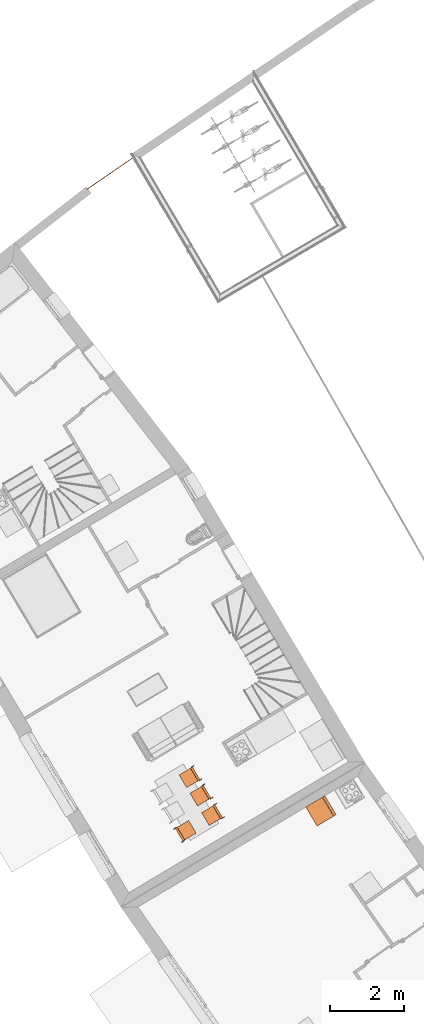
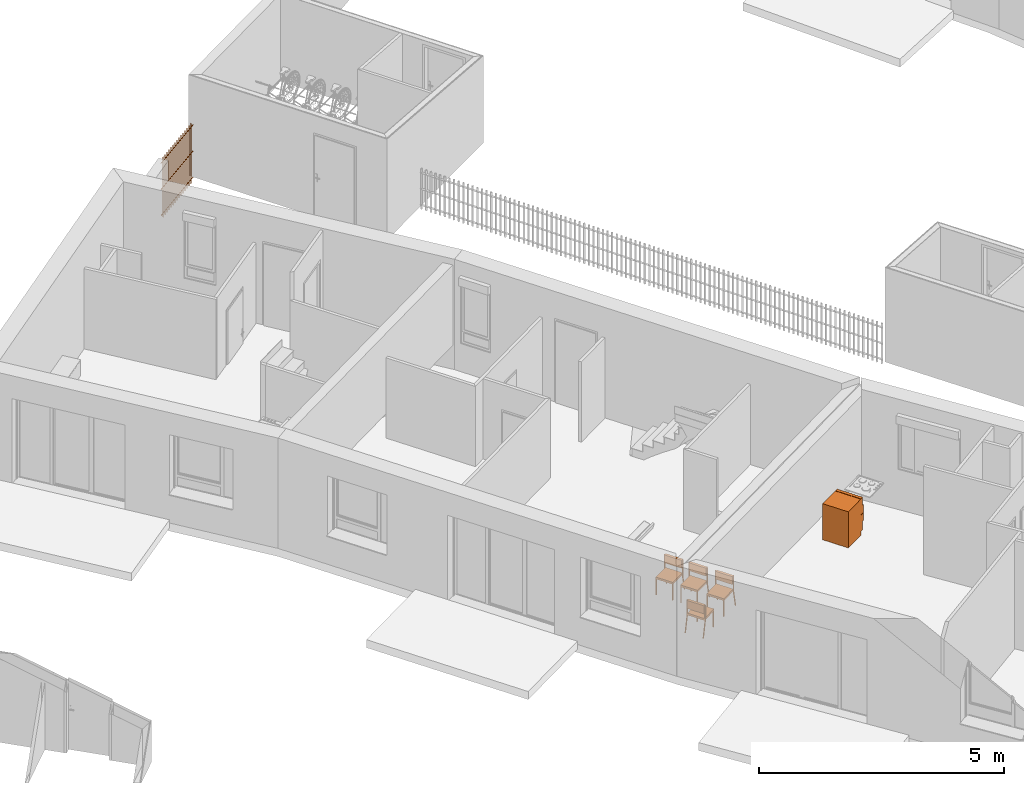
# One storey, part 174 of 195: 6 proxies.
"""IFC2X3 building model written with IfcOpenShell, lengths in metres."""

from ifc_helpers import new_model, entity, si_unit, converted_unit, derived_unit, money_unit, direction, frame, origin_with_axes, place, context, subcontext, project, spatial, open_shell, faceted_brep, surface_model, source, transform, mapped, type_object, element, save


model = new_model("IFC2X3")

# Units and contexts
model_context = context("Model", 3, precision=1e-05, world=origin_with_axes(), true_north=direction((0.0, 1.0)))
body_context = subcontext(model_context, "Body", "Model", "MODEL_VIEW")
ifc_project = project(units=[si_unit("LENGTHUNIT", "METRE"), si_unit("AREAUNIT", "SQUARE_METRE"), si_unit("VOLUMEUNIT", "CUBIC_METRE"), converted_unit("PLANEANGLEUNIT", "DEGREE", entity("IfcPlaneAngleMeasure", 0.0174532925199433), si_unit("PLANEANGLEUNIT", "RADIAN"), dimensions=[0, 0, 0, 0, 0, 0, 0]), money_unit("CHF"), converted_unit("TIMEUNIT", "Year", entity("IfcTimeMeasure", 31557600.0), si_unit("TIMEUNIT", "SECOND"), dimensions=[0, 0, 1, 0, 0, 0, 0]), si_unit("MASSUNIT", "GRAM", prefix="KILO"), si_unit("THERMODYNAMICTEMPERATUREUNIT", "DEGREE_CELSIUS"), si_unit("LUMINOUSINTENSITYUNIT", "LUMEN"), si_unit("ENERGYUNIT", "JOULE", prefix="MEGA"), derived_unit("THERMALCONDUCTANCEUNIT", [(si_unit("POWERUNIT", "WATT"), 1), (si_unit("LENGTHUNIT", "METRE"), -1), (si_unit("THERMODYNAMICTEMPERATUREUNIT", "KELVIN"), -1)]), derived_unit("SPECIFICHEATCAPACITYUNIT", [(si_unit("ENERGYUNIT", "JOULE"), 1), (si_unit("MASSUNIT", "GRAM", prefix="KILO"), -1), (si_unit("THERMODYNAMICTEMPERATUREUNIT", "KELVIN"), -1)]), derived_unit("MASSDENSITYUNIT", [(si_unit("MASSUNIT", "GRAM", prefix="KILO"), 1), (si_unit("VOLUMEUNIT", "CUBIC_METRE"), -1)])], contexts=[model_context])

# Site, building, storey
site_placement = place(None, origin_with_axes())
site = spatial("IfcSite", under=ifc_project, at=site_placement, Name="Site", CompositionType="ELEMENT")
building_placement = place(site_placement, origin_with_axes())
building = spatial("IfcBuilding", under=site, at=building_placement, Name="Bâtiment", CompositionType="ELEMENT")
storey_placement = place(building_placement, origin_with_axes())
storey = spatial("IfcBuildingStorey", under=building, at=storey_placement, Name="rdc", CompositionType="ELEMENT", Elevation=0.0)

# Proxies
building_element_proxy_type_1 = type_object("IfcBuildingElementProxyType", PredefinedType="NOTDEFINED")
shared_shape_1 = source(origin_with_axes(), body_context, "Body", "Brep", [
    faceted_brep([(0.03999999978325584, 0.0, 0.0), (0.01999999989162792, 0.0, 0.0), (0.01999999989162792, 0.01999999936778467, 0.0), (0.03999999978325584, 0.01999999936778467, 0.0), (0.03999999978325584, 0.0, 0.4), (0.01999999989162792, 0.0, 0.4), (0.01999999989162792, 0.01999999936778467, 0.4), (0.03999999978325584, 0.01999999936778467, 0.4)], [[[0, 1, 2, 3]], [[1, 0, 4, 5]], [[2, 1, 5, 6]], [[3, 2, 6, 7]], [[0, 3, 7, 4]], [[5, 4, 7, 6]]]),
    faceted_brep([(0.4199999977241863, 0.0, 0.0), (0.3999999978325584, 0.0, 0.0), (0.3999999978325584, 0.01999999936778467, 0.0), (0.4199999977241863, 0.01999999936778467, 0.0), (0.4199999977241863, 0.0, 0.4), (0.3999999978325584, 0.0, 0.4), (0.3999999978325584, 0.01999999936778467, 0.4), (0.4199999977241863, 0.01999999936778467, 0.4)], [[[0, 1, 2, 3]], [[1, 0, 4, 5]], [[2, 1, 5, 6]], [[3, 2, 6, 7]], [[0, 3, 7, 4]], [[5, 4, 7, 6]]]),
    faceted_brep([(0.3999999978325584, 0.0, 0.4000000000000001), (0.03999999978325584, 0.0, 0.4000000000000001), (0.03999999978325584, 0.01999999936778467, 0.4000000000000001), (0.3999999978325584, 0.01999999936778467, 0.4000000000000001), (0.3999999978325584, 0.0, 0.4200000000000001), (0.03999999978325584, 0.0, 0.4200000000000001), (0.03999999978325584, 0.01999999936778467, 0.4200000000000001), (0.3999999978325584, 0.01999999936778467, 0.4200000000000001)], [[[0, 1, 2, 3]], [[1, 0, 4, 5]], [[2, 1, 5, 6]], [[3, 2, 6, 7]], [[0, 3, 7, 4]], [[5, 4, 7, 6]]]),
    faceted_brep([(0.03999999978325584, 0.01999999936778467, 0.4000000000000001), (0.01999999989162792, 0.01999999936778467, 0.4000000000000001), (0.01999999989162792, 0.3799999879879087, 0.4000000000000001), (0.03999999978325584, 0.3799999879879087, 0.4000000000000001), (0.03999999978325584, 0.01999999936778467, 0.4200000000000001), (0.01999999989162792, 0.01999999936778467, 0.4200000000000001), (0.01999999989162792, 0.3799999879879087, 0.4200000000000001), (0.03999999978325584, 0.3799999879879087, 0.4200000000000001)], [[[0, 1, 2, 3]], [[1, 0, 4, 5]], [[2, 1, 5, 6]], [[3, 2, 6, 7]], [[0, 3, 7, 4]], [[5, 4, 7, 6]]]),
    faceted_brep([(0.4199999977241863, 0.3799999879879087, 0.4000000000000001), (0.01999999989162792, 0.3799999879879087, 0.4000000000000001), (0.01999999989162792, 0.3999999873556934, 0.4000000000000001), (0.4199999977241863, 0.3999999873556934, 0.4000000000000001), (0.4199999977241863, 0.3799999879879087, 0.4200000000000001), (0.01999999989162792, 0.3799999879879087, 0.4200000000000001), (0.01999999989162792, 0.3999999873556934, 0.4200000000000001), (0.4199999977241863, 0.3999999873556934, 0.4200000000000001)], [[[0, 1, 2, 3]], [[1, 0, 4, 5]], [[2, 1, 5, 6]], [[3, 2, 6, 7]], [[0, 3, 7, 4]], [[5, 4, 7, 6]]]),
    faceted_brep([(0.4199999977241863, 0.01999999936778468, 0.4000000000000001), (0.3999999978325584, 0.01999999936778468, 0.4000000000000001), (0.3999999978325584, 0.3799999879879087, 0.4000000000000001), (0.4199999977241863, 0.3799999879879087, 0.4000000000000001), (0.4199999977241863, 0.01999999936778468, 0.4200000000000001), (0.3999999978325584, 0.01999999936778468, 0.4200000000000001), (0.3999999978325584, 0.3799999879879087, 0.4200000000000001), (0.4199999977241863, 0.3799999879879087, 0.4200000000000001)], [[[0, 1, 2, 3]], [[1, 0, 4, 5]], [[2, 1, 5, 6]], [[3, 2, 6, 7]], [[0, 3, 7, 4]], [[5, 4, 7, 6]]]),
    faceted_brep([(0.4199999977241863, 0.0, 0.4), (0.01999999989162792, 0.0, 0.4), (0.01999999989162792, 0.3999999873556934, 0.4), (0.4199999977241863, 0.3999999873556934, 0.4), (0.4199999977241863, 0.0, 0.45), (0.01999999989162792, 0.0, 0.45), (0.01999999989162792, 0.3999999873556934, 0.45), (0.4199999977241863, 0.3999999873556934, 0.45)], [[[0, 1, 2, 3]], [[1, 0, 4, 5]], [[2, 1, 5, 6]], [[3, 2, 6, 7]], [[0, 3, 7, 4]], [[5, 4, 7, 6]]]),
    faceted_brep([(0.01999999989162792, 0.3799999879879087, 0.38), (0.0, 0.3799999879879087, 0.38), (0.0, 0.3999999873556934, 0.38), (0.01999999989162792, 0.3999999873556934, 0.38), (0.01999999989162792, 0.3799999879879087, 0.78), (0.0, 0.3799999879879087, 0.78), (0.0, 0.3999999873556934, 0.78), (0.01999999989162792, 0.3999999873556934, 0.78)], [[[0, 1, 2, 3]], [[1, 0, 4, 5]], [[2, 1, 5, 6]], [[3, 2, 6, 7]], [[0, 3, 7, 4]], [[5, 4, 7, 6]]]),
    faceted_brep([(0.4399999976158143, 0.3799999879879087, 0.38), (0.4199999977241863, 0.3799999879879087, 0.38), (0.4199999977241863, 0.3999999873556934, 0.38), (0.4399999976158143, 0.3999999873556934, 0.38), (0.4399999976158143, 0.3799999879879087, 0.78), (0.4199999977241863, 0.3799999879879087, 0.78), (0.4199999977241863, 0.3999999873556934, 0.78), (0.4399999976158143, 0.3999999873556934, 0.78)], [[[0, 1, 2, 3]], [[1, 0, 4, 5]], [[2, 1, 5, 6]], [[3, 2, 6, 7]], [[0, 3, 7, 4]], [[5, 4, 7, 6]]]),
    faceted_brep([(0.4199999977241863, 0.3599999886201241, 0.5800000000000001), (0.01999999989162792, 0.3599999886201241, 0.5800000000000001), (0.01999999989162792, 0.419999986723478, 0.5800000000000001), (0.4199999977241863, 0.419999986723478, 0.5800000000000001), (0.4199999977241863, 0.3599999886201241, 0.78), (0.01999999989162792, 0.3599999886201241, 0.78), (0.01999999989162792, 0.419999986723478, 0.78), (0.4199999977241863, 0.419999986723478, 0.78)], [[[0, 1, 2, 3]], [[1, 0, 4, 5]], [[2, 1, 5, 6]], [[3, 2, 6, 7]], [[0, 3, 7, 4]], [[5, 4, 7, 6]]]),
    faceted_brep([(0.01999999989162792, 0.4599999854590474, 0.0), (0.0, 0.4599999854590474, 0.0), (0.0, 0.4795709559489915, 0.004120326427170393), (0.01999999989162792, 0.4795709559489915, 0.004120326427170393), (0.01999999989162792, 0.379997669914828, 0.379999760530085), (0.0, 0.379997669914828, 0.379999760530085), (0.0, 0.3995686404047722, 0.3841200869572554), (0.01999999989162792, 0.3995686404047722, 0.3841200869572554)], [[[0, 1, 2, 3]], [[1, 0, 4, 5]], [[2, 1, 5, 6]], [[3, 2, 6, 7]], [[0, 3, 7, 4]], [[5, 4, 7, 6]]]),
    faceted_brep([(0.4399999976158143, 0.4599999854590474, 0.0), (0.4199999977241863, 0.4599999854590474, 0.0), (0.4199999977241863, 0.4795709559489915, 0.004120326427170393), (0.4399999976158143, 0.4795709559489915, 0.004120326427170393), (0.4399999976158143, 0.379997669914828, 0.379999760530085), (0.4199999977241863, 0.379997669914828, 0.379999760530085), (0.4199999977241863, 0.3995686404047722, 0.3841200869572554), (0.4399999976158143, 0.3995686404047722, 0.3841200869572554)], [[[0, 1, 2, 3]], [[1, 0, 4, 5]], [[2, 1, 5, 6]], [[3, 2, 6, 7]], [[0, 3, 7, 4]], [[5, 4, 7, 6]]]),
])
for number, where, z_axis, x_axis, name in (
    (1, (9545.392823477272, -1052.63758636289, 57.0), (0.0, 0.0, 1.0), (0.5118298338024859, -0.8590868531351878, 0.0), "Obj.-027"),
    (2, (9545.077983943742, -1052.10914021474, 57.0), (0.0, 0.0, 1.0), (0.5118298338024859, -0.8590868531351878, 0.0), "Obj.-027"),
    (3, (9544.782724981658, -1051.613559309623, 57.0), (0.0, 0.0, 1.0), (0.5118298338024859, -0.8590868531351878, 0.0), "Obj.-027"),
):
    element("IfcBuildingElementProxy", number, at=place(storey_placement, frame(where, z_axis=z_axis, x_axis=x_axis)), inside=storey, type_object=building_element_proxy_type_1, Name=name, context=body_context, shape_type="MappedRepresentation", body=[
        mapped(shared_shape_1, transform((0.0, 0.0, 0.0))),
    ])
shared_shape_2 = source(origin_with_axes(), body_context, "Body", "SurfaceModel", [
    faceted_brep([(0.0, 0.08, 0.1), (0.0, 0.08, 0.9), (-0.6, 0.08, 0.9), (-0.6, 0.08, 0.1), (0.0, 0.6, 0.1), (0.0, 0.6, 0.9), (-0.6, 0.6, 0.9), (-0.6, 0.6, 0.1)], [[[0, 1, 2, 3]], [[4, 5, 1, 0]], [[1, 5, 6, 2]], [[3, 2, 6, 7]], [[0, 3, 7, 4]], [[7, 6, 5, 4]]]),
    faceted_brep([(0.0, 0.08, 0.0), (0.0, 0.08, 0.1), (-0.6, 0.08, 0.1), (-0.6, 0.08, 0.0), (0.0, 0.6, 0.0), (0.0, 0.6, 0.1), (-0.6, 0.6, 0.1), (-0.6, 0.6, 0.0)], [[[0, 1, 2, 3]], [[4, 5, 1, 0]], [[1, 5, 6, 2]], [[3, 2, 6, 7]], [[0, 3, 7, 4]], [[7, 6, 5, 4]]]),
    faceted_brep([(0.0, 0.07, 0.1), (0.0, 0.0, 0.1), (-0.6, 0.0, 0.1), (-0.6, 0.07, 0.1), (0.0, 0.07000000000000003, 0.494), (0.0, 0.0, 0.494), (-0.6, 0.0, 0.494), (-0.6, 0.07000000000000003, 0.494)], [[[0, 1, 2, 3]], [[4, 5, 1, 0]], [[1, 5, 6, 2]], [[3, 2, 6, 7]], [[0, 3, 7, 4]], [[7, 6, 5, 4]]]),
    faceted_brep([(0.0, 0.07, 0.5), (0.0, 0.0, 0.5), (-0.6, 0.0, 0.5), (-0.6, 0.07, 0.5), (0.0, 0.07000000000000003, 0.9), (0.0, 0.0, 0.9), (-0.6, 0.0, 0.9), (-0.6, 0.07000000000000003, 0.9)], [[[0, 1, 2, 3]], [[4, 5, 1, 0]], [[1, 5, 6, 2]], [[3, 2, 6, 7]], [[0, 3, 7, 4]], [[7, 6, 5, 4]]]),
    surface_model("IfcShellBasedSurfaceModel", [(-0.6, -0.03, 0.3), (-0.6, 0.0, 0.3), (-0.6, 0.0, 0.4940000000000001), (-0.6, -0.03, 0.4940000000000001)], [open_shell([[[0, 1, 2, 3]]])]),
    surface_model("IfcShellBasedSurfaceModel", [(-0.6, -0.03, 0.3), (-0.57, -0.03, 0.3), (-0.57, -0.03, 0.4940000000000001), (-0.6, -0.03, 0.4940000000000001)], [open_shell([[[0, 1, 2, 3]]])]),
    surface_model("IfcShellBasedSurfaceModel", [(-0.6, -0.03, 0.5), (-0.6, 0.0, 0.5), (-0.6, 0.0, 0.7), (-0.6, -0.03, 0.7)], [open_shell([[[0, 1, 2, 3]]])]),
    surface_model("IfcShellBasedSurfaceModel", [(-0.6, -0.03, 0.5), (-0.57, -0.03, 0.5), (-0.57, -0.03, 0.7), (-0.6, -0.03, 0.7)], [open_shell([[[0, 1, 2, 3]]])]),
])
proxy_1_placement = place(storey_placement, frame((9548.743397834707, -1052.190321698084, 57.7), z_axis=(0.0, 0.0, 1.0), x_axis=(-0.5118647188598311, 0.8590660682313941, 0.0)))
element("IfcBuildingElementProxy", 4, at=proxy_1_placement, inside=storey, type_object=building_element_proxy_type_1, Name="Obj.-019", context=body_context, shape_type="MappedRepresentation", body=[
    mapped(shared_shape_2, transform((0.0, 0.0, 0.0))),
])
shared_shape_3 = source(origin_with_axes(), body_context, "Body", "Brep", [
    faceted_brep([(-0.03999999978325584, 0.0, 0.0), (-0.03999999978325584, 0.01999999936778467, 0.0), (-0.01999999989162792, 0.01999999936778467, 0.0), (-0.01999999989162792, 0.0, 0.0), (-0.03999999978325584, 0.0, 0.4), (-0.03999999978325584, 0.01999999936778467, 0.4), (-0.01999999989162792, 0.01999999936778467, 0.4), (-0.01999999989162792, 0.0, 0.4)], [[[0, 1, 2, 3]], [[0, 4, 5, 1]], [[1, 5, 6, 2]], [[2, 6, 7, 3]], [[3, 7, 4, 0]], [[7, 6, 5, 4]]]),
    faceted_brep([(-0.4199999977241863, 0.0, 0.0), (-0.4199999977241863, 0.01999999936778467, 0.0), (-0.3999999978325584, 0.01999999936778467, 0.0), (-0.3999999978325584, 0.0, 0.0), (-0.4199999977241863, 0.0, 0.4), (-0.4199999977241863, 0.01999999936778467, 0.4), (-0.3999999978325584, 0.01999999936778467, 0.4), (-0.3999999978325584, 0.0, 0.4)], [[[0, 1, 2, 3]], [[0, 4, 5, 1]], [[1, 5, 6, 2]], [[2, 6, 7, 3]], [[3, 7, 4, 0]], [[7, 6, 5, 4]]]),
    faceted_brep([(-0.3999999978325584, 0.0, 0.4000000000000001), (-0.3999999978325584, 0.01999999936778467, 0.4000000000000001), (-0.03999999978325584, 0.01999999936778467, 0.4000000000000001), (-0.03999999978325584, 0.0, 0.4000000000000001), (-0.3999999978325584, 0.0, 0.4200000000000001), (-0.3999999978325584, 0.01999999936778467, 0.4200000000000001), (-0.03999999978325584, 0.01999999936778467, 0.4200000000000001), (-0.03999999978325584, 0.0, 0.4200000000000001)], [[[0, 1, 2, 3]], [[0, 4, 5, 1]], [[1, 5, 6, 2]], [[2, 6, 7, 3]], [[3, 7, 4, 0]], [[7, 6, 5, 4]]]),
    faceted_brep([(-0.03999999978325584, 0.01999999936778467, 0.4000000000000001), (-0.03999999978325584, 0.3799999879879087, 0.4000000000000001), (-0.01999999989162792, 0.3799999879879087, 0.4000000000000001), (-0.01999999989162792, 0.01999999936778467, 0.4000000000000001), (-0.03999999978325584, 0.01999999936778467, 0.4200000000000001), (-0.03999999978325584, 0.3799999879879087, 0.4200000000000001), (-0.01999999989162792, 0.3799999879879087, 0.4200000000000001), (-0.01999999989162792, 0.01999999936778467, 0.4200000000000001)], [[[0, 1, 2, 3]], [[0, 4, 5, 1]], [[1, 5, 6, 2]], [[2, 6, 7, 3]], [[3, 7, 4, 0]], [[7, 6, 5, 4]]]),
    faceted_brep([(-0.4199999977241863, 0.3799999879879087, 0.4000000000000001), (-0.4199999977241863, 0.3999999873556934, 0.4000000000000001), (-0.01999999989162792, 0.3999999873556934, 0.4000000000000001), (-0.01999999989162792, 0.3799999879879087, 0.4000000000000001), (-0.4199999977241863, 0.3799999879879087, 0.4200000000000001), (-0.4199999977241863, 0.3999999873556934, 0.4200000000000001), (-0.01999999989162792, 0.3999999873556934, 0.4200000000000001), (-0.01999999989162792, 0.3799999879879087, 0.4200000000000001)], [[[0, 1, 2, 3]], [[0, 4, 5, 1]], [[1, 5, 6, 2]], [[2, 6, 7, 3]], [[3, 7, 4, 0]], [[7, 6, 5, 4]]]),
    faceted_brep([(-0.4199999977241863, 0.01999999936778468, 0.4000000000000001), (-0.4199999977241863, 0.3799999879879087, 0.4000000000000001), (-0.3999999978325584, 0.3799999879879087, 0.4000000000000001), (-0.3999999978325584, 0.01999999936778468, 0.4000000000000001), (-0.4199999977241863, 0.01999999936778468, 0.4200000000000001), (-0.4199999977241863, 0.3799999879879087, 0.4200000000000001), (-0.3999999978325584, 0.3799999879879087, 0.4200000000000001), (-0.3999999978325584, 0.01999999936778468, 0.4200000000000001)], [[[0, 1, 2, 3]], [[0, 4, 5, 1]], [[1, 5, 6, 2]], [[2, 6, 7, 3]], [[3, 7, 4, 0]], [[7, 6, 5, 4]]]),
    faceted_brep([(-0.4199999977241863, 0.0, 0.4), (-0.4199999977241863, 0.3999999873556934, 0.4), (-0.01999999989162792, 0.3999999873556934, 0.4), (-0.01999999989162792, 0.0, 0.4), (-0.4199999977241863, 0.0, 0.45), (-0.4199999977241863, 0.3999999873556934, 0.45), (-0.01999999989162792, 0.3999999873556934, 0.45), (-0.01999999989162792, 0.0, 0.45)], [[[0, 1, 2, 3]], [[0, 4, 5, 1]], [[1, 5, 6, 2]], [[2, 6, 7, 3]], [[3, 7, 4, 0]], [[7, 6, 5, 4]]]),
    faceted_brep([(-0.01999999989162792, 0.3799999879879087, 0.38), (-0.01999999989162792, 0.3999999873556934, 0.38), (0.0, 0.3999999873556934, 0.38), (0.0, 0.3799999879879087, 0.38), (-0.01999999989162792, 0.3799999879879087, 0.78), (-0.01999999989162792, 0.3999999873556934, 0.78), (0.0, 0.3999999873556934, 0.78), (0.0, 0.3799999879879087, 0.78)], [[[0, 1, 2, 3]], [[0, 4, 5, 1]], [[1, 5, 6, 2]], [[2, 6, 7, 3]], [[3, 7, 4, 0]], [[7, 6, 5, 4]]]),
    faceted_brep([(-0.4399999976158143, 0.3799999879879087, 0.38), (-0.4399999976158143, 0.3999999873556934, 0.38), (-0.4199999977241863, 0.3999999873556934, 0.38), (-0.4199999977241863, 0.3799999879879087, 0.38), (-0.4399999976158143, 0.3799999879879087, 0.78), (-0.4399999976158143, 0.3999999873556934, 0.78), (-0.4199999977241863, 0.3999999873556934, 0.78), (-0.4199999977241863, 0.3799999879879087, 0.78)], [[[0, 1, 2, 3]], [[0, 4, 5, 1]], [[1, 5, 6, 2]], [[2, 6, 7, 3]], [[3, 7, 4, 0]], [[7, 6, 5, 4]]]),
    faceted_brep([(-0.4199999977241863, 0.3599999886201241, 0.5800000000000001), (-0.4199999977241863, 0.419999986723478, 0.5800000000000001), (-0.01999999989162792, 0.419999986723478, 0.5800000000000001), (-0.01999999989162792, 0.3599999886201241, 0.5800000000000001), (-0.4199999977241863, 0.3599999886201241, 0.78), (-0.4199999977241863, 0.419999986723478, 0.78), (-0.01999999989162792, 0.419999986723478, 0.78), (-0.01999999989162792, 0.3599999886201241, 0.78)], [[[0, 1, 2, 3]], [[0, 4, 5, 1]], [[1, 5, 6, 2]], [[2, 6, 7, 3]], [[3, 7, 4, 0]], [[7, 6, 5, 4]]]),
    faceted_brep([(-0.01999999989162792, 0.4599999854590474, 0.0), (-0.01999999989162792, 0.4795709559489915, 0.004120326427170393), (0.0, 0.4795709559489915, 0.004120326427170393), (0.0, 0.4599999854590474, 0.0), (-0.01999999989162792, 0.379997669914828, 0.379999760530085), (-0.01999999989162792, 0.3995686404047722, 0.3841200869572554), (0.0, 0.3995686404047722, 0.3841200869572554), (0.0, 0.379997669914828, 0.379999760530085)], [[[0, 1, 2, 3]], [[0, 4, 5, 1]], [[1, 5, 6, 2]], [[2, 6, 7, 3]], [[3, 7, 4, 0]], [[7, 6, 5, 4]]]),
    faceted_brep([(-0.4399999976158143, 0.4599999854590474, 0.0), (-0.4399999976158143, 0.4795709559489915, 0.004120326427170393), (-0.4199999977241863, 0.4795709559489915, 0.004120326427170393), (-0.4199999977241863, 0.4599999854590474, 0.0), (-0.4399999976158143, 0.379997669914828, 0.379999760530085), (-0.4399999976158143, 0.3995686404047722, 0.3841200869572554), (-0.4199999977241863, 0.3995686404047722, 0.3841200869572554), (-0.4199999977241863, 0.379997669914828, 0.379999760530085)], [[[0, 1, 2, 3]], [[0, 4, 5, 1]], [[1, 5, 6, 2]], [[2, 6, 7, 3]], [[3, 7, 4, 0]], [[7, 6, 5, 4]]]),
])
proxy_2_placement = place(storey_placement, frame((9545.04226674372, -1052.846442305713, 57.0), z_axis=(0.0, 0.0, 1.0), x_axis=(-0.5118298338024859, 0.8590868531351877, 0.0)))
element("IfcBuildingElementProxy", 5, at=proxy_2_placement, inside=storey, type_object=building_element_proxy_type_1, Name="Obj.-027", context=body_context, shape_type="MappedRepresentation", body=[
    mapped(shared_shape_3, transform((0.0, 0.0, 0.0))),
])
building_element_proxy_type_2 = type_object("IfcBuildingElementProxyType", Name="Grille anti-effraction", PredefinedType="NOTDEFINED")
shared_shape_4 = source(origin_with_axes(), body_context, "Body", "Brep", [
    faceted_brep([(0.7605730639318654, -0.01, 0.1), (0.7605730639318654, 0.0, 0.09000000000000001), (0.7605730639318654, 0.01, 0.1), (0.7605730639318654, 0.0, 0.11), (-0.7605730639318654, -0.01, 0.1000000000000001), (-0.7605730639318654, 0.0, 0.0900000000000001), (-0.7605730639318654, 0.01, 0.1000000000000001), (-0.7605730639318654, 0.0, 0.1100000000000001)], [[[0, 1, 2, 3]], [[0, 4, 5, 1]], [[1, 5, 6, 2]], [[2, 6, 7, 3]], [[3, 7, 4, 0]], [[4, 7, 6, 5]]]),
    faceted_brep([(0.7605730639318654, -0.01, 0.75), (0.7605730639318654, 0.0, 0.74), (0.7605730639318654, 0.01, 0.75), (0.7605730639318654, 0.0, 0.76), (-0.7605730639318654, -0.01, 0.7500000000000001), (-0.7605730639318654, 0.0, 0.7400000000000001), (-0.7605730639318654, 0.01, 0.7500000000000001), (-0.7605730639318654, 0.0, 0.7600000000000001)], [[[0, 1, 2, 3]], [[0, 4, 5, 1]], [[1, 5, 6, 2]], [[2, 6, 7, 3]], [[3, 7, 4, 0]], [[4, 7, 6, 5]]]),
    faceted_brep([(0.7605730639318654, -0.01, 1.4), (0.7605730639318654, 0.0, 1.39), (0.7605730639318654, 0.01, 1.4), (0.7605730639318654, 0.0, 1.41), (-0.7605730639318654, -0.01, 1.4), (-0.7605730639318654, 0.0, 1.39), (-0.7605730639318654, 0.01, 1.4), (-0.7605730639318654, 0.0, 1.41)], [[[0, 1, 2, 3]], [[0, 4, 5, 1]], [[1, 5, 6, 2]], [[2, 6, 7, 3]], [[3, 7, 4, 0]], [[4, 7, 6, 5]]]),
    faceted_brep([(0.6605730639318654, -0.01, 0.0), (0.6505730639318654, 0.0, 0.0), (0.6605730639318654, 0.01, 0.0), (0.6705730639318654, 0.0, 0.0), (0.6605730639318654, -0.01, 1.5), (0.6505730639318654, 0.0, 1.5), (0.6605730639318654, 0.01, 1.5), (0.6705730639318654, 0.0, 1.5)], [[[0, 1, 2, 3]], [[0, 4, 5, 1]], [[1, 5, 6, 2]], [[2, 6, 7, 3]], [[3, 7, 4, 0]], [[4, 7, 6, 5]]]),
    faceted_brep([(0.5662054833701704, -0.01, 0.0), (0.5562054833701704, 0.0, 0.0), (0.5662054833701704, 0.01, 0.0), (0.5762054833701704, 0.0, 0.0), (0.5662054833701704, -0.01, 1.5), (0.5562054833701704, 0.0, 1.5), (0.5662054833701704, 0.01, 1.5), (0.5762054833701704, 0.0, 1.5)], [[[0, 1, 2, 3]], [[0, 4, 5, 1]], [[1, 5, 6, 2]], [[2, 6, 7, 3]], [[3, 7, 4, 0]], [[4, 7, 6, 5]]]),
    faceted_brep([(0.4718379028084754, -0.01, 0.0), (0.4618379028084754, 0.0, 0.0), (0.4718379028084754, 0.01, 0.0), (0.4818379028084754, 0.0, 0.0), (0.4718379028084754, -0.01, 1.5), (0.4618379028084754, 0.0, 1.5), (0.4718379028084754, 0.01, 1.5), (0.4818379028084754, 0.0, 1.5)], [[[0, 1, 2, 3]], [[0, 4, 5, 1]], [[1, 5, 6, 2]], [[2, 6, 7, 3]], [[3, 7, 4, 0]], [[4, 7, 6, 5]]]),
    faceted_brep([(0.3774703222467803, -0.01, 0.0), (0.3674703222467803, 0.0, 0.0), (0.3774703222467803, 0.01, 0.0), (0.3874703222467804, 0.0, 0.0), (0.3774703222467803, -0.01, 1.5), (0.3674703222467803, 0.0, 1.5), (0.3774703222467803, 0.01, 1.5), (0.3874703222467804, 0.0, 1.5)], [[[0, 1, 2, 3]], [[0, 4, 5, 1]], [[1, 5, 6, 2]], [[2, 6, 7, 3]], [[3, 7, 4, 0]], [[4, 7, 6, 5]]]),
    faceted_brep([(0.2831027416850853, -0.01, 0.0), (0.2731027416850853, 0.0, 0.0), (0.2831027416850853, 0.01, 0.0), (0.2931027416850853, 0.0, 0.0), (0.2831027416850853, -0.01, 1.5), (0.2731027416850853, 0.0, 1.5), (0.2831027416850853, 0.01, 1.5), (0.2931027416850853, 0.0, 1.5)], [[[0, 1, 2, 3]], [[0, 4, 5, 1]], [[1, 5, 6, 2]], [[2, 6, 7, 3]], [[3, 7, 4, 0]], [[4, 7, 6, 5]]]),
    faceted_brep([(0.1887351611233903, -0.01, 0.0), (0.1787351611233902, 0.0, 0.0), (0.1887351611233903, 0.01, 0.0), (0.1987351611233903, 0.0, 0.0), (0.1887351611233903, -0.01, 1.5), (0.1787351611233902, 0.0, 1.5), (0.1887351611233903, 0.01, 1.5), (0.1987351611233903, 0.0, 1.5)], [[[0, 1, 2, 3]], [[0, 4, 5, 1]], [[1, 5, 6, 2]], [[2, 6, 7, 3]], [[3, 7, 4, 0]], [[4, 7, 6, 5]]]),
    faceted_brep([(0.0943675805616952, -0.01, 0.0), (0.0843675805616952, 0.0, 0.0), (0.0943675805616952, 0.01, 0.0), (0.1043675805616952, 0.0, 0.0), (0.0943675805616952, -0.01, 1.5), (0.0843675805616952, 0.0, 1.5), (0.0943675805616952, 0.01, 1.5), (0.1043675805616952, 0.0, 1.5)], [[[0, 1, 2, 3]], [[0, 4, 5, 1]], [[1, 5, 6, 2]], [[2, 6, 7, 3]], [[3, 7, 4, 0]], [[4, 7, 6, 5]]]),
    faceted_brep([(0.0, -0.01, 0.0), (-0.009999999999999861, 0.0, 0.0), (0.0, 0.01, 0.0), (0.01000000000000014, 0.0, 0.0), (0.0, -0.01, 1.5), (-0.009999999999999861, 0.0, 1.5), (0.0, 0.01, 1.5), (0.01000000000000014, 0.0, 1.5)], [[[0, 1, 2, 3]], [[0, 4, 5, 1]], [[1, 5, 6, 2]], [[2, 6, 7, 3]], [[3, 7, 4, 0]], [[4, 7, 6, 5]]]),
    faceted_brep([(-0.09436758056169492, -0.01, 0.0), (-0.1043675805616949, 0.0, 0.0), (-0.09436758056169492, 0.01, 0.0), (-0.08436758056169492, 0.0, 0.0), (-0.09436758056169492, -0.01, 1.5), (-0.1043675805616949, 0.0, 1.5), (-0.09436758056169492, 0.01, 1.5), (-0.08436758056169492, 0.0, 1.5)], [[[0, 1, 2, 3]], [[0, 4, 5, 1]], [[1, 5, 6, 2]], [[2, 6, 7, 3]], [[3, 7, 4, 0]], [[4, 7, 6, 5]]]),
    faceted_brep([(-0.18873516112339, -0.01, 0.0), (-0.19873516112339, 0.0, 0.0), (-0.18873516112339, 0.01, 0.0), (-0.17873516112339, 0.0, 0.0), (-0.18873516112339, -0.01, 1.5), (-0.19873516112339, 0.0, 1.5), (-0.18873516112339, 0.01, 1.5), (-0.17873516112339, 0.0, 1.5)], [[[0, 1, 2, 3]], [[0, 4, 5, 1]], [[1, 5, 6, 2]], [[2, 6, 7, 3]], [[3, 7, 4, 0]], [[4, 7, 6, 5]]]),
    faceted_brep([(-0.283102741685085, -0.01, 0.0), (-0.293102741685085, 0.0, 0.0), (-0.283102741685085, 0.01, 0.0), (-0.273102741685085, 0.0, 0.0), (-0.283102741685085, -0.01, 1.5), (-0.293102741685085, 0.0, 1.5), (-0.283102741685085, 0.01, 1.5), (-0.273102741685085, 0.0, 1.5)], [[[0, 1, 2, 3]], [[0, 4, 5, 1]], [[1, 5, 6, 2]], [[2, 6, 7, 3]], [[3, 7, 4, 0]], [[4, 7, 6, 5]]]),
    faceted_brep([(-0.3774703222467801, -0.01, 0.0), (-0.3874703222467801, 0.0, 0.0), (-0.3774703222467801, 0.01, 0.0), (-0.3674703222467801, 0.0, 0.0), (-0.3774703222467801, -0.01, 1.5), (-0.3874703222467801, 0.0, 1.5), (-0.3774703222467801, 0.01, 1.5), (-0.3674703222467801, 0.0, 1.5)], [[[0, 1, 2, 3]], [[0, 4, 5, 1]], [[1, 5, 6, 2]], [[2, 6, 7, 3]], [[3, 7, 4, 0]], [[4, 7, 6, 5]]]),
    faceted_brep([(-0.4718379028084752, -0.01, 0.0), (-0.4818379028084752, 0.0, 0.0), (-0.4718379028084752, 0.01, 0.0), (-0.4618379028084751, 0.0, 0.0), (-0.4718379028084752, -0.01, 1.5), (-0.4818379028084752, 0.0, 1.5), (-0.4718379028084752, 0.01, 1.5), (-0.4618379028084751, 0.0, 1.5)], [[[0, 1, 2, 3]], [[0, 4, 5, 1]], [[1, 5, 6, 2]], [[2, 6, 7, 3]], [[3, 7, 4, 0]], [[4, 7, 6, 5]]]),
    faceted_brep([(-0.5662054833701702, -0.01, 0.0), (-0.5762054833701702, 0.0, 0.0), (-0.5662054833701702, 0.01, 0.0), (-0.5562054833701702, 0.0, 0.0), (-0.5662054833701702, -0.01, 1.5), (-0.5762054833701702, 0.0, 1.5), (-0.5662054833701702, 0.01, 1.5), (-0.5562054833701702, 0.0, 1.5)], [[[0, 1, 2, 3]], [[0, 4, 5, 1]], [[1, 5, 6, 2]], [[2, 6, 7, 3]], [[3, 7, 4, 0]], [[4, 7, 6, 5]]]),
    faceted_brep([(-0.6605730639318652, -0.01, 0.0), (-0.6705730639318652, 0.0, 0.0), (-0.6605730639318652, 0.01, 0.0), (-0.6505730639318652, 0.0, 0.0), (-0.6605730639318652, -0.01, 1.5), (-0.6705730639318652, 0.0, 1.5), (-0.6605730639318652, 0.01, 1.5), (-0.6505730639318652, 0.0, 1.5)], [[[0, 1, 2, 3]], [[0, 4, 5, 1]], [[1, 5, 6, 2]], [[2, 6, 7, 3]], [[3, 7, 4, 0]], [[4, 7, 6, 5]]]),
])
proxy_3_placement = place(storey_placement, frame((9542.925192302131, -1035.321429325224, 57.6), z_axis=(0.0, 0.0, 1.0), x_axis=(-0.8235659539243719, -0.5672205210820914, 0.0)))
element("IfcBuildingElementProxy", 6, at=proxy_3_placement, inside=storey, type_object=building_element_proxy_type_2, Name="Obj.-010", context=body_context, shape_type="MappedRepresentation", body=[
    mapped(shared_shape_4, transform((0.0, 0.0, 0.0))),
])

save(model, "model.ifc")
